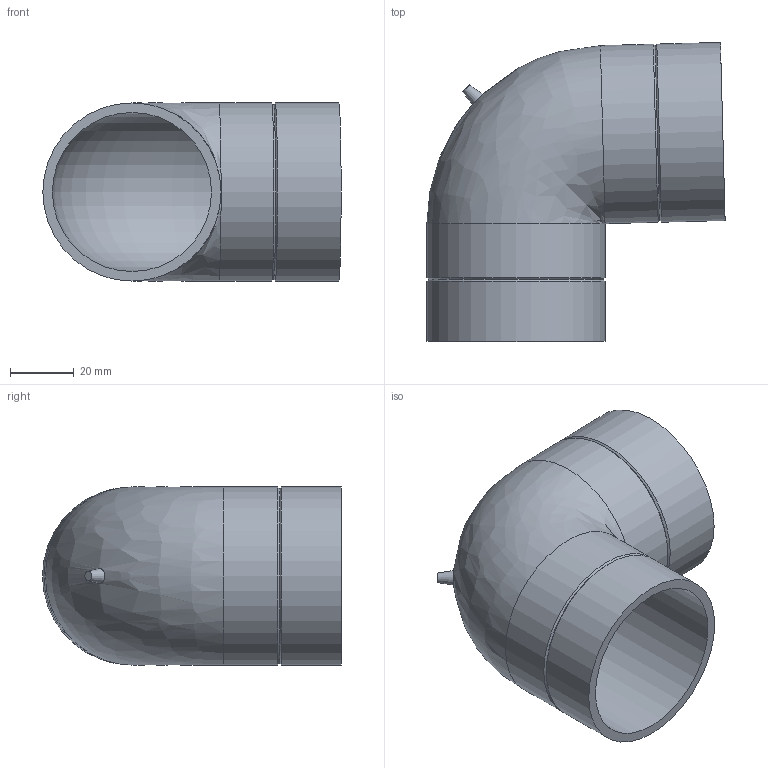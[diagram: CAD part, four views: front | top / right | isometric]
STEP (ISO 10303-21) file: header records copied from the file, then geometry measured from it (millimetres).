
FILE_DESCRIPTION(/* description */ (''),/* implementation_level */ '2;1');
FILE_NAME(/* name */ 'Z:\Geberit\Export\NewStep\363088.stp',/* time_stamp */ '2014-04-01T21:08:49+02:00',/* author */ ('nelson'),/* organization */ (''),/* preprocessor_version */ 'ST-DEVELOPER v15.2',/* originating_system */ 'Autodesk Inventor 2014',/* authorisation */ '');
FILE_SCHEMA (('AUTOMOTIVE_DESIGN { 1 0 10303 214 3 1 1 }'));
Length unit declared in the file: millimetre
Products named in the file (1): 363088
Bounding box: 93.73 x 93.98 x 56 mm (x, y, z)
Volume: 59116.7 mm3; surface area: 40524.6 mm2
Topology: 1 solids, 1 shells, 16 faces, 34 edges, 19 vertices
Faces by surface type: cylinder 6, cone 5, plane 3, torus 1, bspline 1
Full cylindrical faces by diameter (mm): 50 x2, 56 x4
Entity records: 459 total; most frequent: CARTESIAN_POINT 169, DIRECTION 62, ORIENTED_EDGE 32, EDGE_LOOP 31, AXIS2_PLACEMENT_3D 31, FACE_BOUND 18, EDGE_CURVE 16, ADVANCED_FACE 16
